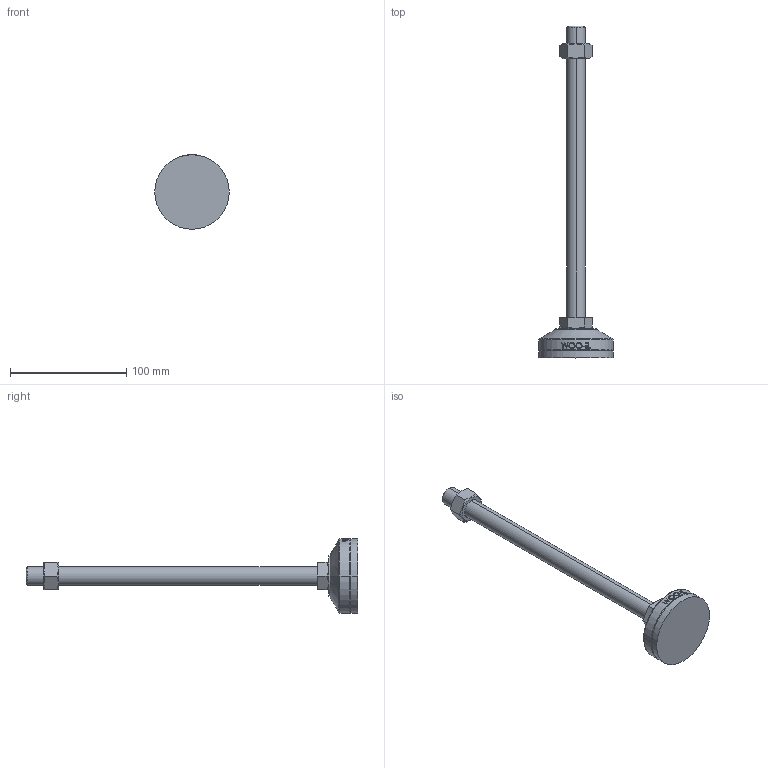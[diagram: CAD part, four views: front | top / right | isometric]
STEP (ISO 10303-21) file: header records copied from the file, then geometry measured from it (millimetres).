
FILE_DESCRIPTION (( 'STEP AP214' ), '1' );
FILE_NAME ('MFR64-M16-250.step', '2021-01-13T05:37:02', ( '' ), ( '' ), 'SwSTEP 2.0', 'SolidWorks 2019', '' );
FILE_SCHEMA (( 'AUTOMOTIVE_DESIGN' ));
Length unit declared in the file: millimetre
Products named in the file (2): MFR64-M16-250
Bounding box: 64 x 285 x 64 mm (x, y, z)
Volume: 127744.1 mm3; surface area: 32983.3 mm2
Topology: 4 solids, 4 shells, 103 faces, 235 edges, 150 vertices
Faces by surface type: plane 49, cylinder 18, bspline 16, cone 14, torus 6
Entity records: 4393 total; most frequent: CARTESIAN_POINT 2120, ORIENTED_EDGE 470, DIRECTION 417, EDGE_CURVE 235, AXIS2_PLACEMENT_3D 159, VERTEX_POINT 150, EDGE_LOOP 115, FACE_OUTER_BOUND 103
